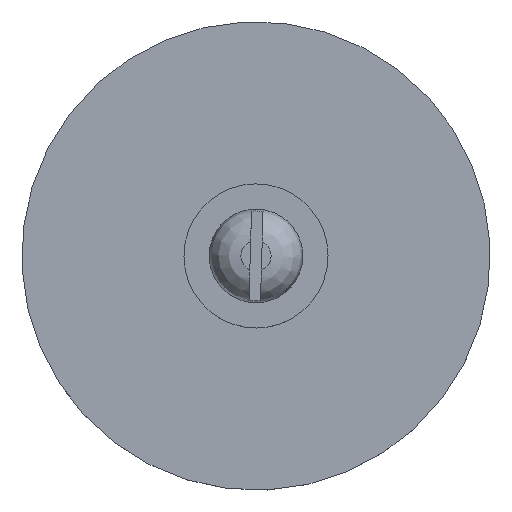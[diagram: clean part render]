
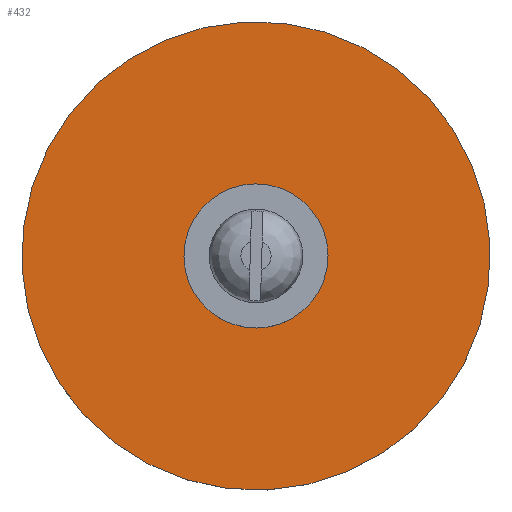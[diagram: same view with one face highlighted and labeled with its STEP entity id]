
A CAD part, top view. The second image highlights one B-rep face of the part: STEP entity #432.
In plain terms, the highlighted planar face has unit normal (0, 0, 1).
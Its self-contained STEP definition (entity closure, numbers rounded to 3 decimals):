
#58=FACE_BOUND('',#130,.T.);
#68=PLANE('',#562);
#97=FACE_OUTER_BOUND('',#129,.T.);
#129=EDGE_LOOP('',(#346));
#130=EDGE_LOOP('',(#347));
#194=CIRCLE('',#559,0.8);
#195=CIRCLE('',#561,6.5);
#227=VERTEX_POINT('',#811);
#228=VERTEX_POINT('',#815);
#268=EDGE_CURVE('',#227,#227,#194,.T.);
#270=EDGE_CURVE('',#228,#228,#195,.T.);
#346=ORIENTED_EDGE('',*,*,#270,.T.);
#347=ORIENTED_EDGE('',*,*,#268,.T.);
#432=ADVANCED_FACE('',(#97,#58),#68,.T.);
#559=AXIS2_PLACEMENT_3D('',#812,#664,#665);
#561=AXIS2_PLACEMENT_3D('',#816,#669,#670);
#562=AXIS2_PLACEMENT_3D('',#818,#672,#673);
#664=DIRECTION('center_axis',(0.,0.,-1.));
#665=DIRECTION('ref_axis',(-1.,0.,0.));
#669=DIRECTION('center_axis',(0.,0.,1.));
#670=DIRECTION('ref_axis',(1.,0.,0.));
#672=DIRECTION('center_axis',(0.,0.,1.));
#673=DIRECTION('ref_axis',(1.,0.,0.));
#811=CARTESIAN_POINT('',(0.8,0.,0.4));
#812=CARTESIAN_POINT('Origin',(0.,0.,0.4));
#815=CARTESIAN_POINT('',(-6.5,0.,0.4));
#816=CARTESIAN_POINT('Origin',(0.,0.,0.4));
#818=CARTESIAN_POINT('Origin',(0.,0.,0.4));
